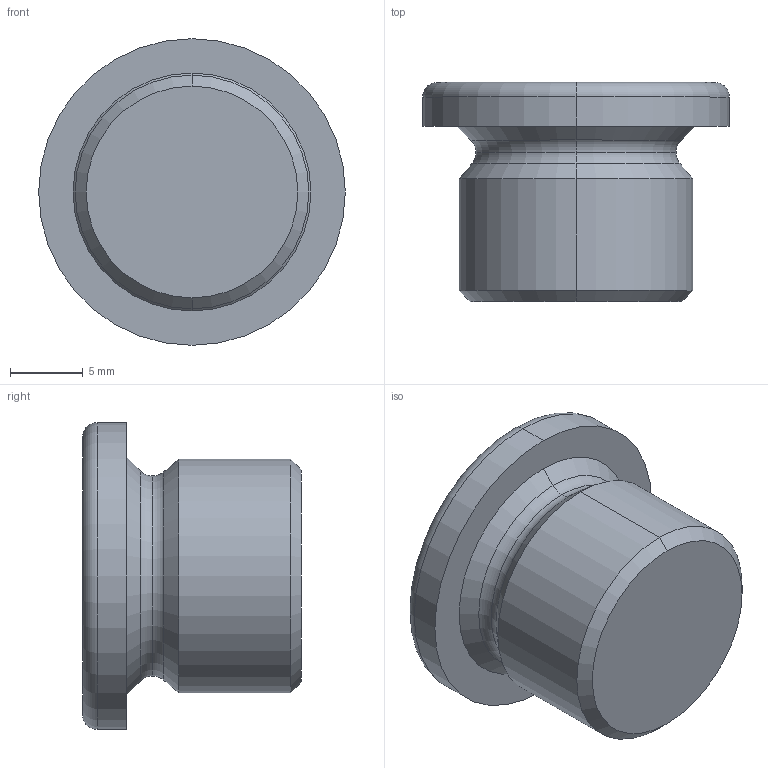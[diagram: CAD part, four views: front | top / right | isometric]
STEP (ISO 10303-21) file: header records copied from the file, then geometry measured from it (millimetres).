
FILE_DESCRIPTION (( 'STEP AP214' ), '1' );
FILE_NAME ('908-A4-M16x1,5-A.step', '2024-12-19T09:18:18', ( '' ), ( '' ), 'SwSTEP 2.0', 'SolidWorks 2022', '' );
FILE_SCHEMA (( 'AUTOMOTIVE_DESIGN' ));
Length unit declared in the file: millimetre
Products named in the file (1): 908-A4-M16x1,5-A
Bounding box: 21 x 15 x 21 mm (x, y, z)
Volume: 2892.1 mm3; surface area: 1668.2 mm2
Topology: 1 solids, 1 shells, 26 faces, 54 edges, 32 vertices
Faces by surface type: plane 10, torus 6, cone 6, cylinder 4
Entity records: 744 total; most frequent: DIRECTION 134, CARTESIAN_POINT 113, ORIENTED_EDGE 108, EDGE_CURVE 54, AXIS2_PLACEMENT_3D 53, VERTEX_POINT 32, LINE 28, VECTOR 28
